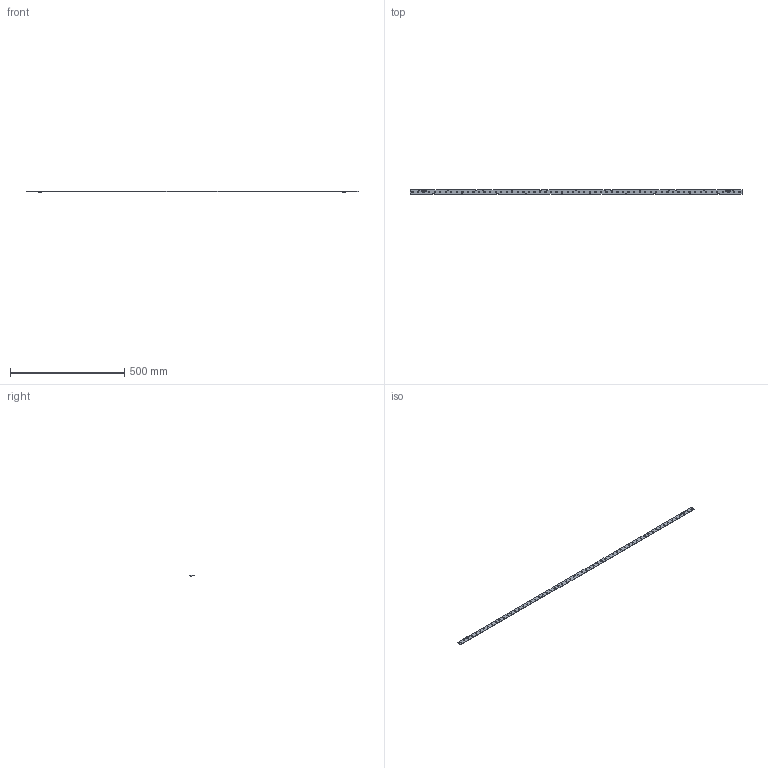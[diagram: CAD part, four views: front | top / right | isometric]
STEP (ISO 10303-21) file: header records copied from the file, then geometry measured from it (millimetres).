
FILE_DESCRIPTION(/* description */ (''),/* implementation_level */ '2;1');
FILE_NAME(/* name */ '5FT 3250lm HV BC Optical-20160920.stp',/* time_stamp */ '2016-09-20T10:31:05+08:00',/* author */ (''),/* organization */ (''),/* preprocessor_version */ 'ST-DEVELOPER v11',/* originating_system */ 'SIEMENS PLM Software NX 7.5',/* authorisation */ '');
FILE_SCHEMA (('CONFIG_CONTROL_DESIGN'));
Length unit declared in the file: millimetre
Products named in the file (4): CONNECTOR_SMD_BJB-46-121-1001_19-02-16_1.1; LED_SMD_5630-LEMWS59T80_LGIT_20-01-15_0.93; 5FT 3250lm FC HV_PCB-20160825; 5FT 3250lm HV FC Optical-20160913
Assembly tree (63 placements, depth 2):
  5FT 3250lm HV FC Optical-20160913
    5FT 3250lm FC HV_PCB-20160825
    LED_SMD_5630-LEMWS59T80_LGIT_20-01-15_0.93  x60
    CONNECTOR_SMD_BJB-46-121-1001_19-02-16_1.1  x2
Bounding box: 1450 x 20 x 7.43 mm (x, y, z)
Volume: 46912.8 mm3; surface area: 66241.6 mm2
Topology: 63 solids, 63 shells, 3018 faces, 8398 edges, 5594 vertices
Faces by surface type: plane 2368, cylinder 618, bspline 28, cone 4
Full cylindrical faces by diameter (mm): 0.6 x4
Entity records: 18323 total; most frequent: CARTESIAN_POINT 3899, ORIENTED_EDGE 2616, DIRECTION 2484, EDGE_CURVE 1308, LINE 1064, VECTOR 1064, VERTEX_POINT 871, AXIS2_PLACEMENT_3D 710
